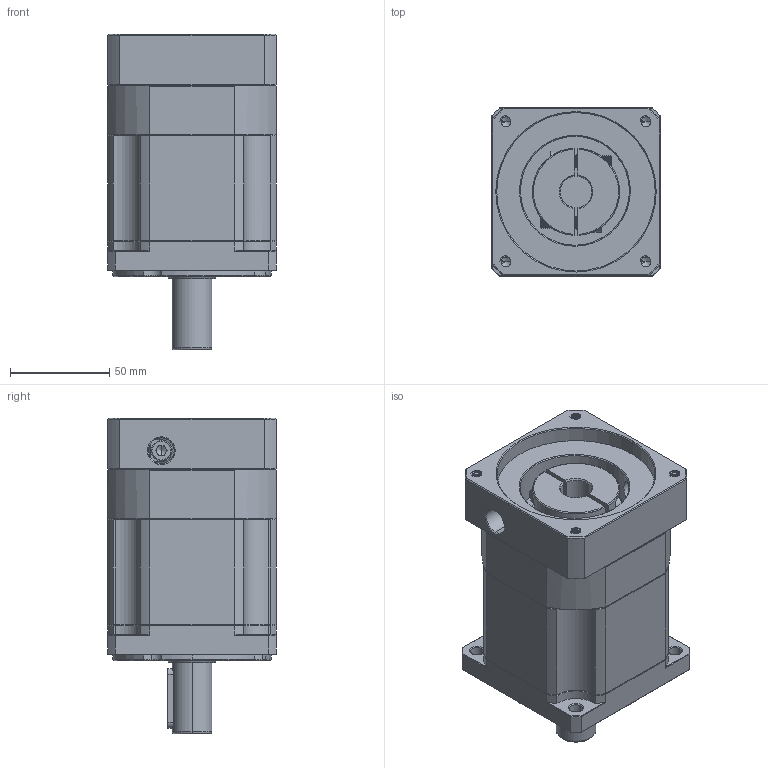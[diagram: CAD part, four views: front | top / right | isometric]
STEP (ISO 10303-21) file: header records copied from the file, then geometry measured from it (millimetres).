
FILE_DESCRIPTION (( 'STEP AP214' ), '1' );
FILE_NAME ('ZB90-D20-L2-16-80-100-M6.STEP', '2022-05-02T15:39:35', ( '' ), ( 'Microsoft' ), 'SwSTEP 2.0', 'SolidWorks 2016', '' );
FILE_SCHEMA (( 'AUTOMOTIVE_DESIGN' ));
Length unit declared in the file: millimetre
Products named in the file (1): ZB90-D20-L2-16-80-100-M6
Bounding box: 85 x 85 x 159.5 mm (x, y, z)
Volume: 720274 mm3; surface area: 92171 mm2
Topology: 4 solids, 5 shells, 1941 faces, 5066 edges, 3205 vertices
Faces by surface type: plane 886, cylinder 396, cone 333, bspline 299, torus 27
Entity records: 104678 total; most frequent: CARTESIAN_POINT 38403, ORIENTED_EDGE 10088, DIRECTION 8186, EDGE_CURVE 5044, VERTEX_POINT 3205, LINE 3100, VECTOR 3100, AXIS2_PLACEMENT_3D 2543
